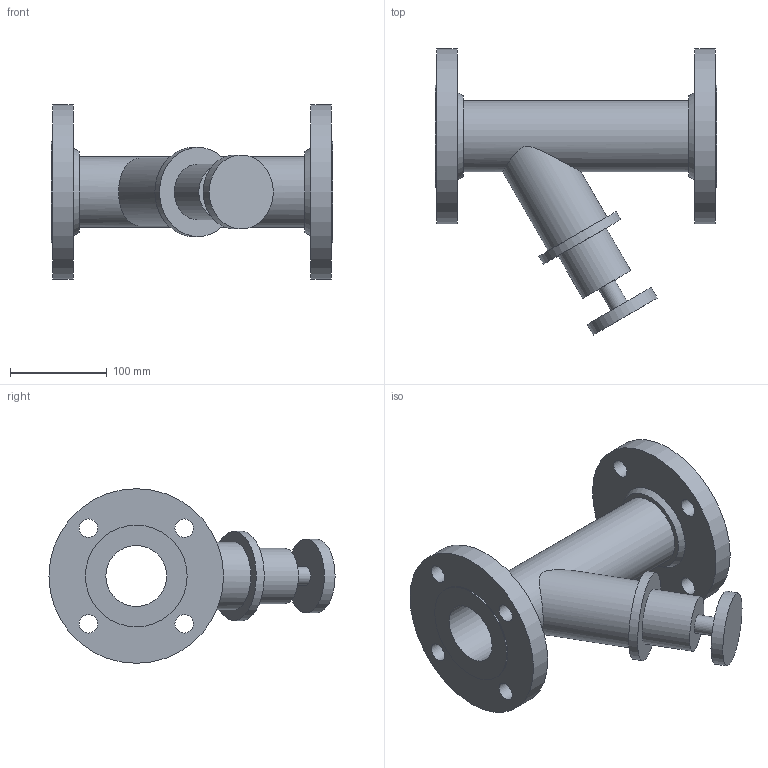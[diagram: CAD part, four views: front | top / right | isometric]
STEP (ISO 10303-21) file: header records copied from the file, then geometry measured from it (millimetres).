
FILE_DESCRIPTION(/* description */ ('VIC TA CIRCUIT BALANCING VALVE SERIES 788 (FLG)','CAx-IF Rec.Pracs.---Representation and Presentation of Product Manufacturing Information (PMI)---4.0---2014-10-13'),/* implementation_level */ '2;1');
FILE_NAME(/* name */ 'C:\Users\Vjadhav\AppData\Roaming\Autodesk\ApplicationPlugins\Back Up\Victaulic-IPS-TA Balancing Valve Series 788\Victaulic-IPS-TA Balancing Valve Series 788_2.5 (65).stp',/* time_stamp */ '2020-03-19T19:19:37+06:00',/* author */ ('cps_temp'),/* organization */ ('Victaulic'),/* preprocessor_version */ 'ST-DEVELOPER v17.2',/* originating_system */ 'Autodesk Inventor 2019',/* authorisation */ '');
FILE_SCHEMA (('AP242_MANAGED_MODEL_BASED_3D_ENGINEERING_MIM_LF { 1 0 10303 442 1 1 4 }'));
Length unit declared in the file: inch
Products named in the file (1): 788-02.5
Bounding box: 290.07 x 295.02 x 180.09 mm (x, y, z)
Volume: 1756041.2 mm3; surface area: 277985.4 mm2
Topology: 1 solids, 1 shells, 34 faces, 91 edges, 69 vertices
Faces by surface type: cylinder 19, plane 13, cone 2
Full cylindrical faces by diameter (mm): 19.05 x9, 57.15 x1, 62.713 x1, 69.85 x1, 73.025 x1, 76.2 x1, 92.05 x1, 104.902 x2, 180.086 x2
Entity records: 1412 total; most frequent: CARTESIAN_POINT 287, DIRECTION 250, ORIENTED_EDGE 182, AXIS2_PLACEMENT_3D 114, EDGE_CURVE 91, VERTEX_POINT 69, CIRCLE 66, EDGE_LOOP 62
